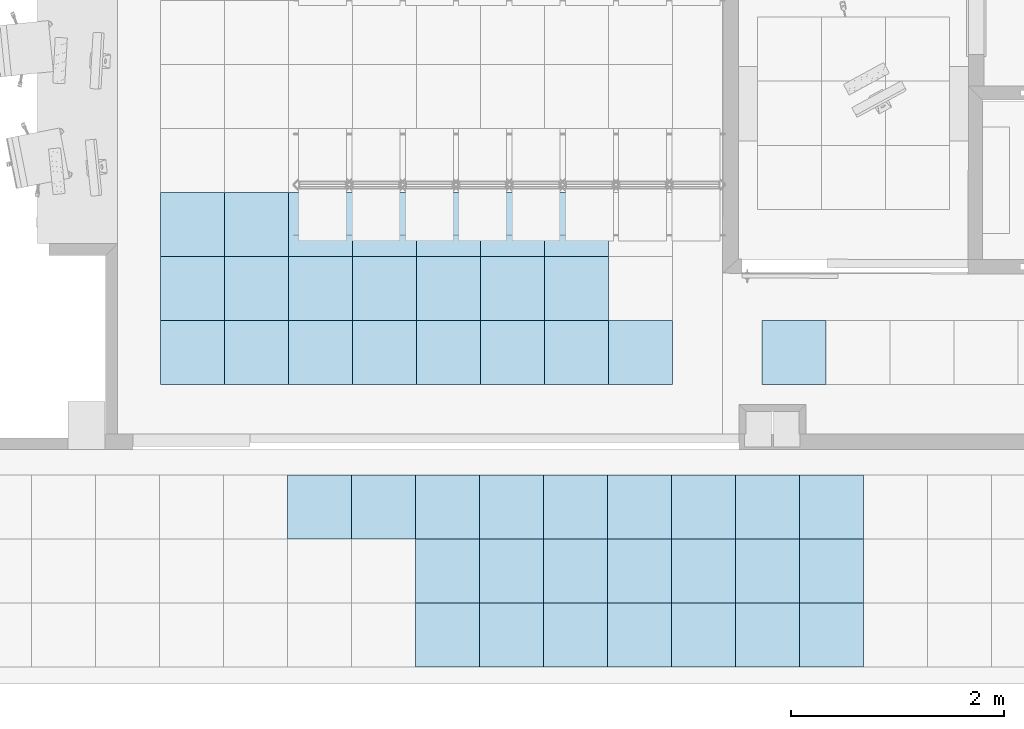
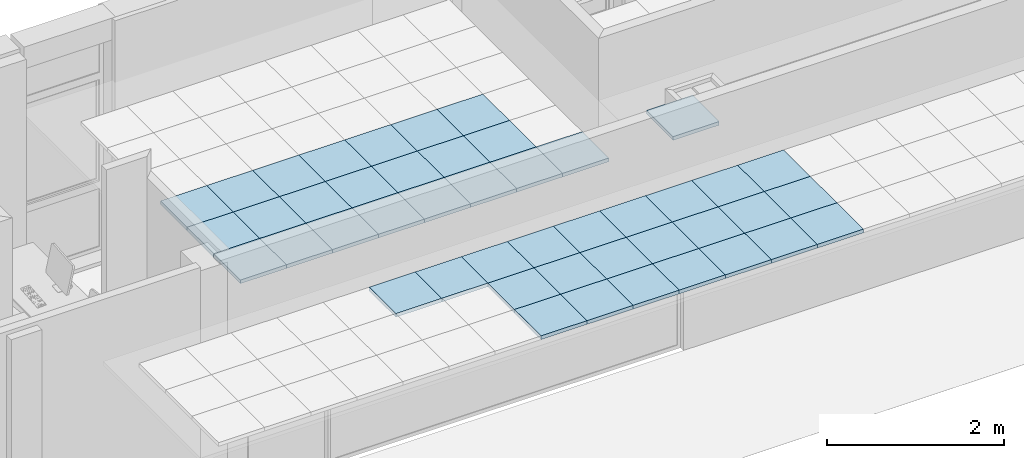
# One storey, part 14 of 68: 46 slabs.
"""IFC2X3 building model written with IfcOpenShell, lengths in millimetres."""

from ifc_helpers import new_model, entity, si_unit, converted_unit, derived_unit, money_unit, direction, frame, origin_with_axes, place, context, subcontext, project, spatial, polyline, outline, extrude, material, layer, layer_set, layer_usage, type_object, element, save


model = new_model("IFC2X3")

# Units and contexts
model_context = context("Model", 3, precision=0.01, world=origin_with_axes(), true_north=direction((0.0, 1.0)))
body_context = subcontext(model_context, "Body", "Model", "MODEL_VIEW")
ifc_project = project(units=[si_unit("LENGTHUNIT", "METRE", prefix="MILLI"), si_unit("AREAUNIT", "SQUARE_METRE"), si_unit("VOLUMEUNIT", "CUBIC_METRE"), converted_unit("PLANEANGLEUNIT", "DEGREE", entity("IfcPlaneAngleMeasure", 0.0174532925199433), si_unit("PLANEANGLEUNIT", "RADIAN"), dimensions=[0, 0, 0, 0, 0, 0, 0]), money_unit("USD"), converted_unit("TIMEUNIT", "Year", entity("IfcTimeMeasure", 31557600.0), si_unit("TIMEUNIT", "SECOND"), dimensions=[0, 0, 1, 0, 0, 0, 0]), si_unit("MASSUNIT", "GRAM", prefix="KILO"), si_unit("THERMODYNAMICTEMPERATUREUNIT", "DEGREE_CELSIUS"), si_unit("LUMINOUSINTENSITYUNIT", "LUMEN"), si_unit("ENERGYUNIT", "JOULE", prefix="MEGA"), derived_unit("THERMALCONDUCTANCEUNIT", [(si_unit("POWERUNIT", "WATT"), 1), (si_unit("LENGTHUNIT", "METRE"), -1), (si_unit("THERMODYNAMICTEMPERATUREUNIT", "KELVIN"), -1)]), derived_unit("SPECIFICHEATCAPACITYUNIT", [(si_unit("ENERGYUNIT", "JOULE"), 1), (si_unit("MASSUNIT", "GRAM", prefix="KILO"), -1), (si_unit("THERMODYNAMICTEMPERATUREUNIT", "KELVIN"), -1)]), derived_unit("MASSDENSITYUNIT", [(si_unit("MASSUNIT", "GRAM", prefix="KILO"), 1), (si_unit("VOLUMEUNIT", "CUBIC_METRE"), -1)])], contexts=[model_context])

# Site, building, storey
site_placement = place(None, origin_with_axes())
site = spatial("IfcSite", under=ifc_project, at=site_placement, Name="Sitio", CompositionType="ELEMENT")
building_placement = place(site_placement, origin_with_axes())
building = spatial("IfcBuilding", under=site, at=building_placement, Name="Construcción", CompositionType="ELEMENT")
storey_placement = place(building_placement, origin_with_axes())
storey = spatial("IfcBuildingStorey", under=building, at=storey_placement, Name="PLANTA 1ª", CompositionType="ELEMENT", Elevation=0.0)

# Slabs
ifc_material_1 = material(Name="ARQ_CE217_Armstrong 60x60")
ifc_layer_1 = layer(ifc_material_1, 50.0, ventilated="UNKNOWN")
ifc_layer_set_1 = layer_set([ifc_layer_1], Name="ARQ_CE217_Armstrong 60x60 50")
ifc_layer_usage_1 = layer_usage(ifc_layer_set_1, "AXIS3", "NEGATIVE", 50.0)
slab_type_1 = type_object("IfcSlabType", Name="ARQ_CE217_Armstrong 60x60 50", PredefinedType="NOTDEFINED")
slab_1_placement = place(storey_placement, frame((-18358.75335666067, -15874.05591184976, 2500.0), z_axis=(0.0, 0.0, 1.0), x_axis=(1.0, 0.0, 0.0)))
element("IfcSlab", 1, at=slab_1_placement, inside=storey, type_object=slab_type_1, material=ifc_layer_usage_1, Name="SLA - 026", PredefinedType="NOTDEFINED", context=body_context, shape_type="SweptSolid", body=[
    extrude(outline(polyline([(0.0, 0.0), (600.0000000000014, 0.0), (600.0000000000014, 599.9999999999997), (0.0, 599.9999999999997), (0.0, 0.0)])), frame((0.0, 0.0, -50.0), z_axis=(0.0, 0.0, 1.0), x_axis=(1.0, 0.0, 0.0)), (0.0, 0.0, 1.0), 50.0),
])
ifc_layer_usage_2 = layer_usage(ifc_layer_set_1, "AXIS3", "NEGATIVE", 50.0)
slab_2_placement = place(storey_placement, frame((-17158.75335666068, -15874.05591184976, 2500.0), z_axis=(0.0, 0.0, 1.0), x_axis=(1.0, 0.0, 0.0)))
element("IfcSlab", 2, at=slab_2_placement, inside=storey, type_object=slab_type_1, material=ifc_layer_usage_2, Name="SLA - 026", PredefinedType="NOTDEFINED", context=body_context, shape_type="SweptSolid", body=[
    extrude(outline(polyline([(0.0, 0.0), (600.0000000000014, 0.0), (600.0000000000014, 599.9999999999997), (0.0, 599.9999999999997), (0.0, 0.0)])), frame((0.0, 0.0, -50.0), z_axis=(0.0, 0.0, 1.0), x_axis=(1.0, 0.0, 0.0)), (0.0, 0.0, 1.0), 50.0),
])
ifc_layer_usage_3 = layer_usage(ifc_layer_set_1, "AXIS3", "NEGATIVE", 50.0)
slab_3_placement = place(storey_placement, frame((-16558.75335666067, -15874.05591184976, 2500.0), z_axis=(0.0, 0.0, 1.0), x_axis=(1.0, 0.0, 0.0)))
element("IfcSlab", 3, at=slab_3_placement, inside=storey, type_object=slab_type_1, material=ifc_layer_usage_3, Name="SLA - 026", PredefinedType="NOTDEFINED", context=body_context, shape_type="SweptSolid", body=[
    extrude(outline(polyline([(0.0, 0.0), (599.9999999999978, 0.0), (599.9999999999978, 599.9999999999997), (0.0, 599.9999999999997), (0.0, 0.0)])), frame((0.0, 0.0, -50.0), z_axis=(0.0, 0.0, 1.0), x_axis=(1.0, 0.0, 0.0)), (0.0, 0.0, 1.0), 50.0),
])
ifc_layer_usage_4 = layer_usage(ifc_layer_set_1, "AXIS3", "NEGATIVE", 50.0)
slab_4_placement = place(storey_placement, frame((-15958.75335666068, -15874.05591184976, 2500.0), z_axis=(0.0, 0.0, 1.0), x_axis=(1.0, 0.0, 0.0)))
element("IfcSlab", 4, at=slab_4_placement, inside=storey, type_object=slab_type_1, material=ifc_layer_usage_4, Name="SLA - 026", PredefinedType="NOTDEFINED", context=body_context, shape_type="SweptSolid", body=[
    extrude(outline(polyline([(0.0, 0.0), (600.0000000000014, 0.0), (600.0000000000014, 599.9999999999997), (0.0, 599.9999999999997), (0.0, 0.0)])), frame((0.0, 0.0, -50.0), z_axis=(0.0, 0.0, 1.0), x_axis=(1.0, 0.0, 0.0)), (0.0, 0.0, 1.0), 50.0),
])
ifc_layer_usage_5 = layer_usage(ifc_layer_set_1, "AXIS3", "NEGATIVE", 50.0)
slab_5_placement = place(storey_placement, frame((-15358.75335666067, -15874.05591184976, 2500.0), z_axis=(0.0, 0.0, 1.0), x_axis=(1.0, 0.0, 0.0)))
element("IfcSlab", 5, at=slab_5_placement, inside=storey, type_object=slab_type_1, material=ifc_layer_usage_5, Name="SLA - 026", PredefinedType="NOTDEFINED", context=body_context, shape_type="SweptSolid", body=[
    extrude(outline(polyline([(0.0, 0.0), (599.9999999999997, 0.0), (599.9999999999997, 599.9999999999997), (0.0, 599.9999999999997), (0.0, 0.0)])), frame((0.0, 0.0, -50.0), z_axis=(0.0, 0.0, 1.0), x_axis=(1.0, 0.0, 0.0)), (0.0, 0.0, 1.0), 50.0),
])
ifc_layer_usage_6 = layer_usage(ifc_layer_set_1, "AXIS3", "NEGATIVE", 50.0)
slab_6_placement = place(storey_placement, frame((-17758.75335666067, -15874.05591184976, 2500.0), z_axis=(0.0, 0.0, 1.0), x_axis=(1.0, 0.0, 0.0)))
element("IfcSlab", 6, at=slab_6_placement, inside=storey, type_object=slab_type_1, material=ifc_layer_usage_6, Name="SLA - 026", PredefinedType="NOTDEFINED", context=body_context, shape_type="SweptSolid", body=[
    extrude(outline(polyline([(0.0, 0.0), (599.9999999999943, 0.0), (599.9999999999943, 599.9999999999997), (0.0, 599.9999999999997), (0.0, 0.0)])), frame((0.0, 0.0, -50.0), z_axis=(0.0, 0.0, 1.0), x_axis=(1.0, 0.0, 0.0)), (0.0, 0.0, 1.0), 50.0),
])
ifc_layer_usage_7 = layer_usage(ifc_layer_set_1, "AXIS3", "NEGATIVE", 50.0)
slab_7_placement = place(storey_placement, frame((-14758.75335666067, -15874.05591184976, 2500.0), z_axis=(0.0, 0.0, 1.0), x_axis=(1.0, 0.0, 0.0)))
element("IfcSlab", 7, at=slab_7_placement, inside=storey, type_object=slab_type_1, material=ifc_layer_usage_7, Name="SLA - 026", PredefinedType="NOTDEFINED", context=body_context, shape_type="SweptSolid", body=[
    extrude(outline(polyline([(0.0, 0.0), (599.9999999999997, 0.0), (599.9999999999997, 599.9999999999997), (0.0, 599.9999999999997), (0.0, 0.0)])), frame((0.0, 0.0, -50.0), z_axis=(0.0, 0.0, 1.0), x_axis=(1.0, 0.0, 0.0)), (0.0, 0.0, 1.0), 50.0),
])
ifc_layer_usage_8 = layer_usage(ifc_layer_set_1, "AXIS3", "NEGATIVE", 50.0)
slab_8_placement = place(storey_placement, frame((-18358.75335666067, -15274.05591184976, 2500.0), z_axis=(0.0, 0.0, 1.0), x_axis=(1.0, 0.0, 0.0)))
element("IfcSlab", 8, at=slab_8_placement, inside=storey, type_object=slab_type_1, material=ifc_layer_usage_8, Name="SLA - 026", PredefinedType="NOTDEFINED", context=body_context, shape_type="SweptSolid", body=[
    extrude(outline(polyline([(0.0, 0.0), (600.0000000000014, 0.0), (600.0000000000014, 599.9999999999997), (0.0, 599.9999999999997), (0.0, 0.0)])), frame((0.0, 0.0, -50.0), z_axis=(0.0, 0.0, 1.0), x_axis=(1.0, 0.0, 0.0)), (0.0, 0.0, 1.0), 50.0),
])
ifc_layer_usage_9 = layer_usage(ifc_layer_set_1, "AXIS3", "NEGATIVE", 50.0)
slab_9_placement = place(storey_placement, frame((-17158.75335666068, -15274.05591184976, 2500.0), z_axis=(0.0, 0.0, 1.0), x_axis=(1.0, 0.0, 0.0)))
element("IfcSlab", 9, at=slab_9_placement, inside=storey, type_object=slab_type_1, material=ifc_layer_usage_9, Name="SLA - 026", PredefinedType="NOTDEFINED", context=body_context, shape_type="SweptSolid", body=[
    extrude(outline(polyline([(0.0, 0.0), (600.0000000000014, 0.0), (600.0000000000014, 599.9999999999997), (0.0, 599.9999999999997), (0.0, 0.0)])), frame((0.0, 0.0, -50.0), z_axis=(0.0, 0.0, 1.0), x_axis=(1.0, 0.0, 0.0)), (0.0, 0.0, 1.0), 50.0),
])
ifc_layer_usage_10 = layer_usage(ifc_layer_set_1, "AXIS3", "NEGATIVE", 50.0)
slab_10_placement = place(storey_placement, frame((-17758.75335666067, -15274.05591184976, 2500.0), z_axis=(0.0, 0.0, 1.0), x_axis=(1.0, 0.0, 0.0)))
element("IfcSlab", 10, at=slab_10_placement, inside=storey, type_object=slab_type_1, material=ifc_layer_usage_10, Name="SLA - 026", PredefinedType="NOTDEFINED", context=body_context, shape_type="SweptSolid", body=[
    extrude(outline(polyline([(0.0, 0.0), (599.9999999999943, 0.0), (599.9999999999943, 599.9999999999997), (0.0, 599.9999999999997), (0.0, 0.0)])), frame((0.0, 0.0, -50.0), z_axis=(0.0, 0.0, 1.0), x_axis=(1.0, 0.0, 0.0)), (0.0, 0.0, 1.0), 50.0),
])
ifc_layer_usage_11 = layer_usage(ifc_layer_set_1, "AXIS3", "NEGATIVE", 50.0)
slab_11_placement = place(storey_placement, frame((-15958.75335666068, -15274.05591184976, 2500.0), z_axis=(0.0, 0.0, 1.0), x_axis=(1.0, 0.0, 0.0)))
element("IfcSlab", 11, at=slab_11_placement, inside=storey, type_object=slab_type_1, material=ifc_layer_usage_11, Name="SLA - 026", PredefinedType="NOTDEFINED", context=body_context, shape_type="SweptSolid", body=[
    extrude(outline(polyline([(0.0, 0.0), (600.0000000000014, 0.0), (600.0000000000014, 599.9999999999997), (0.0, 599.9999999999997), (0.0, 0.0)])), frame((0.0, 0.0, -50.0), z_axis=(0.0, 0.0, 1.0), x_axis=(1.0, 0.0, 0.0)), (0.0, 0.0, 1.0), 50.0),
])
ifc_layer_usage_12 = layer_usage(ifc_layer_set_1, "AXIS3", "NEGATIVE", 50.0)
slab_12_placement = place(storey_placement, frame((-16558.75335666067, -15274.05591184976, 2500.0), z_axis=(0.0, 0.0, 1.0), x_axis=(1.0, 0.0, 0.0)))
element("IfcSlab", 12, at=slab_12_placement, inside=storey, type_object=slab_type_1, material=ifc_layer_usage_12, Name="SLA - 026", PredefinedType="NOTDEFINED", context=body_context, shape_type="SweptSolid", body=[
    extrude(outline(polyline([(0.0, 0.0), (599.9999999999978, 0.0), (599.9999999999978, 599.9999999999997), (0.0, 599.9999999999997), (0.0, 0.0)])), frame((0.0, 0.0, -50.0), z_axis=(0.0, 0.0, 1.0), x_axis=(1.0, 0.0, 0.0)), (0.0, 0.0, 1.0), 50.0),
])
ifc_layer_usage_13 = layer_usage(ifc_layer_set_1, "AXIS3", "NEGATIVE", 50.0)
slab_13_placement = place(storey_placement, frame((-15358.75335666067, -15274.05591184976, 2500.0), z_axis=(0.0, 0.0, 1.0), x_axis=(1.0, 0.0, 0.0)))
element("IfcSlab", 13, at=slab_13_placement, inside=storey, type_object=slab_type_1, material=ifc_layer_usage_13, Name="SLA - 026", PredefinedType="NOTDEFINED", context=body_context, shape_type="SweptSolid", body=[
    extrude(outline(polyline([(0.0, 0.0), (599.9999999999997, 0.0), (599.9999999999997, 599.9999999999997), (0.0, 599.9999999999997), (0.0, 0.0)])), frame((0.0, 0.0, -50.0), z_axis=(0.0, 0.0, 1.0), x_axis=(1.0, 0.0, 0.0)), (0.0, 0.0, 1.0), 50.0),
])
ifc_layer_usage_14 = layer_usage(ifc_layer_set_1, "AXIS3", "NEGATIVE", 50.0)
slab_14_placement = place(storey_placement, frame((-14758.75335666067, -15274.05591184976, 2500.0), z_axis=(0.0, 0.0, 1.0), x_axis=(1.0, 0.0, 0.0)))
element("IfcSlab", 14, at=slab_14_placement, inside=storey, type_object=slab_type_1, material=ifc_layer_usage_14, Name="SLA - 026", PredefinedType="NOTDEFINED", context=body_context, shape_type="SweptSolid", body=[
    extrude(outline(polyline([(0.0, 0.0), (599.9999999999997, 0.0), (599.9999999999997, 599.9999999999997), (0.0, 599.9999999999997), (0.0, 0.0)])), frame((0.0, 0.0, -50.0), z_axis=(0.0, 0.0, 1.0), x_axis=(1.0, 0.0, 0.0)), (0.0, 0.0, 1.0), 50.0),
])
ifc_layer_usage_15 = layer_usage(ifc_layer_set_1, "AXIS3", "NEGATIVE", 50.0)
slab_15_placement = place(storey_placement, frame((-18358.75335666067, -16474.05591184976, 2500.0), z_axis=(0.0, 0.0, 1.0), x_axis=(1.0, 0.0, 0.0)))
element("IfcSlab", 15, at=slab_15_placement, inside=storey, type_object=slab_type_1, material=ifc_layer_usage_15, Name="SLA - 026", PredefinedType="NOTDEFINED", context=body_context, shape_type="SweptSolid", body=[
    extrude(outline(polyline([(0.0, 0.0), (600.0000000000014, 0.0), (600.0000000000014, 600.0000000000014), (0.0, 600.0000000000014), (0.0, 0.0)])), frame((0.0, 0.0, -50.0), z_axis=(0.0, 0.0, 1.0), x_axis=(1.0, 0.0, 0.0)), (0.0, 0.0, 1.0), 50.0),
])
ifc_layer_usage_16 = layer_usage(ifc_layer_set_1, "AXIS3", "NEGATIVE", 50.0)
slab_16_placement = place(storey_placement, frame((-17158.75335666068, -16474.05591184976, 2500.0), z_axis=(0.0, 0.0, 1.0), x_axis=(1.0, 0.0, 0.0)))
element("IfcSlab", 16, at=slab_16_placement, inside=storey, type_object=slab_type_1, material=ifc_layer_usage_16, Name="SLA - 026", PredefinedType="NOTDEFINED", context=body_context, shape_type="SweptSolid", body=[
    extrude(outline(polyline([(0.0, 0.0), (600.0000000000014, 0.0), (600.0000000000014, 600.0000000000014), (0.0, 600.0000000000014), (0.0, 0.0)])), frame((0.0, 0.0, -50.0), z_axis=(0.0, 0.0, 1.0), x_axis=(1.0, 0.0, 0.0)), (0.0, 0.0, 1.0), 50.0),
])
ifc_layer_usage_17 = layer_usage(ifc_layer_set_1, "AXIS3", "NEGATIVE", 50.0)
slab_17_placement = place(storey_placement, frame((-17758.75335666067, -16474.05591184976, 2500.0), z_axis=(0.0, 0.0, 1.0), x_axis=(1.0, 0.0, 0.0)))
element("IfcSlab", 17, at=slab_17_placement, inside=storey, type_object=slab_type_1, material=ifc_layer_usage_17, Name="SLA - 026", PredefinedType="NOTDEFINED", context=body_context, shape_type="SweptSolid", body=[
    extrude(outline(polyline([(0.0, 0.0), (599.9999999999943, 0.0), (599.9999999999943, 600.0000000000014), (0.0, 600.0000000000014), (0.0, 0.0)])), frame((0.0, 0.0, -50.0), z_axis=(0.0, 0.0, 1.0), x_axis=(1.0, 0.0, 0.0)), (0.0, 0.0, 1.0), 50.0),
])
ifc_layer_usage_18 = layer_usage(ifc_layer_set_1, "AXIS3", "NEGATIVE", 50.0)
slab_18_placement = place(storey_placement, frame((-15958.75335666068, -16474.05591184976, 2500.0), z_axis=(0.0, 0.0, 1.0), x_axis=(1.0, 0.0, 0.0)))
element("IfcSlab", 18, at=slab_18_placement, inside=storey, type_object=slab_type_1, material=ifc_layer_usage_18, Name="SLA - 026", PredefinedType="NOTDEFINED", context=body_context, shape_type="SweptSolid", body=[
    extrude(outline(polyline([(0.0, 0.0), (600.0000000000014, 0.0), (600.0000000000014, 600.0000000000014), (0.0, 600.0000000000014), (0.0, 0.0)])), frame((0.0, 0.0, -50.0), z_axis=(0.0, 0.0, 1.0), x_axis=(1.0, 0.0, 0.0)), (0.0, 0.0, 1.0), 50.0),
])
ifc_layer_usage_19 = layer_usage(ifc_layer_set_1, "AXIS3", "NEGATIVE", 50.0)
slab_19_placement = place(storey_placement, frame((-14758.75335666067, -16474.05591184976, 2500.0), z_axis=(0.0, 0.0, 1.0), x_axis=(1.0, 0.0, 0.0)))
element("IfcSlab", 19, at=slab_19_placement, inside=storey, type_object=slab_type_1, material=ifc_layer_usage_19, Name="SLA - 026", PredefinedType="NOTDEFINED", context=body_context, shape_type="SweptSolid", body=[
    extrude(outline(polyline([(0.0, 0.0), (599.9999999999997, 0.0), (599.9999999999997, 600.0000000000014), (0.0, 600.0000000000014), (0.0, 0.0)])), frame((0.0, 0.0, -50.0), z_axis=(0.0, 0.0, 1.0), x_axis=(1.0, 0.0, 0.0)), (0.0, 0.0, 1.0), 50.0),
])
ifc_layer_usage_20 = layer_usage(ifc_layer_set_1, "AXIS3", "NEGATIVE", 50.0)
slab_20_placement = place(storey_placement, frame((-14158.75335666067, -16474.05591184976, 2500.0), z_axis=(0.0, 0.0, 1.0), x_axis=(1.0, 0.0, 0.0)))
element("IfcSlab", 20, at=slab_20_placement, inside=storey, type_object=slab_type_1, material=ifc_layer_usage_20, Name="SLA - 026", PredefinedType="NOTDEFINED", context=body_context, shape_type="SweptSolid", body=[
    extrude(outline(polyline([(0.0, 0.0), (600.0000000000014, 0.0), (600.0000000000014, 600.0000000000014), (0.0, 600.0000000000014), (0.0, 0.0)])), frame((0.0, 0.0, -50.0), z_axis=(0.0, 0.0, 1.0), x_axis=(1.0, 0.0, 0.0)), (0.0, 0.0, 1.0), 50.0),
])
ifc_layer_usage_21 = layer_usage(ifc_layer_set_1, "AXIS3", "NEGATIVE", 50.0)
slab_21_placement = place(storey_placement, frame((-15358.75335666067, -16474.05591184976, 2500.0), z_axis=(0.0, 0.0, 1.0), x_axis=(1.0, 0.0, 0.0)))
element("IfcSlab", 21, at=slab_21_placement, inside=storey, type_object=slab_type_1, material=ifc_layer_usage_21, Name="SLA - 026", PredefinedType="NOTDEFINED", context=body_context, shape_type="SweptSolid", body=[
    extrude(outline(polyline([(0.0, 0.0), (599.9999999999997, 0.0), (599.9999999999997, 600.0000000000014), (0.0, 600.0000000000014), (0.0, 0.0)])), frame((0.0, 0.0, -50.0), z_axis=(0.0, 0.0, 1.0), x_axis=(1.0, 0.0, 0.0)), (0.0, 0.0, 1.0), 50.0),
])
ifc_layer_usage_22 = layer_usage(ifc_layer_set_1, "AXIS3", "NEGATIVE", 50.0)
slab_22_placement = place(storey_placement, frame((-12719.57597210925, -16474.05591184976, 2500.0), z_axis=(0.0, 0.0, 1.0), x_axis=(1.0, 0.0, 0.0)))
element("IfcSlab", 22, at=slab_22_placement, inside=storey, type_object=slab_type_1, material=ifc_layer_usage_22, Name="SLA - 026", PredefinedType="NOTDEFINED", context=body_context, shape_type="SweptSolid", body=[
    extrude(outline(polyline([(0.0, 0.0), (600.0000000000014, 0.0), (600.0000000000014, 600.0000000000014), (0.0, 600.0000000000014), (0.0, 0.0)])), frame((0.0, 0.0, -50.0), z_axis=(0.0, 0.0, 1.0), x_axis=(1.0, 0.0, 0.0)), (0.0, 0.0, 1.0), 50.0),
])
ifc_layer_usage_23 = layer_usage(ifc_layer_set_1, "AXIS3", "NEGATIVE", 50.0)
slab_23_placement = place(storey_placement, frame((-17169.70328336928, -17921.97576450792, 2500.0), z_axis=(0.0, 0.0, 1.0), x_axis=(1.0, 0.0, 0.0)))
element("IfcSlab", 23, at=slab_23_placement, inside=storey, type_object=slab_type_1, material=ifc_layer_usage_23, Name="SLA - 026", PredefinedType="NOTDEFINED", context=body_context, shape_type="SweptSolid", body=[
    extrude(outline(polyline([(0.0, 0.0), (600.0000000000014, 0.0), (600.0000000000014, 600.0000000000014), (0.0, 600.0000000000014), (0.0, 0.0)])), frame((0.0, 0.0, -50.0), z_axis=(0.0, 0.0, 1.0), x_axis=(1.0, 0.0, 0.0)), (0.0, 0.0, 1.0), 50.0),
])
ifc_layer_usage_24 = layer_usage(ifc_layer_set_1, "AXIS3", "NEGATIVE", 50.0)
slab_24_placement = place(storey_placement, frame((-16569.70328336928, -17921.97576450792, 2500.0), z_axis=(0.0, 0.0, 1.0), x_axis=(1.0, 0.0, 0.0)))
element("IfcSlab", 24, at=slab_24_placement, inside=storey, type_object=slab_type_1, material=ifc_layer_usage_24, Name="SLA - 026", PredefinedType="NOTDEFINED", context=body_context, shape_type="SweptSolid", body=[
    extrude(outline(polyline([(0.0, 0.0), (599.9999999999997, 0.0), (599.9999999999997, 600.0000000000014), (0.0, 600.0000000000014), (0.0, 0.0)])), frame((0.0, 0.0, -50.0), z_axis=(0.0, 0.0, 1.0), x_axis=(1.0, 0.0, 0.0)), (0.0, 0.0, 1.0), 50.0),
])
ifc_layer_usage_25 = layer_usage(ifc_layer_set_1, "AXIS3", "NEGATIVE", 50.0)
slab_25_placement = place(storey_placement, frame((-15969.70328336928, -19121.97576450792, 2500.0), z_axis=(0.0, 0.0, 1.0), x_axis=(1.0, 0.0, 0.0)))
element("IfcSlab", 25, at=slab_25_placement, inside=storey, type_object=slab_type_1, material=ifc_layer_usage_25, Name="SLA - 026", PredefinedType="NOTDEFINED", context=body_context, shape_type="SweptSolid", body=[
    extrude(outline(polyline([(0.0, 0.0), (600.0000000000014, 0.0), (600.0000000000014, 600.0000000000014), (0.0, 600.0000000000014), (0.0, 0.0)])), frame((0.0, 0.0, -50.0), z_axis=(0.0, 0.0, 1.0), x_axis=(1.0, 0.0, 0.0)), (0.0, 0.0, 1.0), 50.0),
])
ifc_layer_usage_26 = layer_usage(ifc_layer_set_1, "AXIS3", "NEGATIVE", 50.0)
slab_26_placement = place(storey_placement, frame((-15969.70328336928, -18521.97576450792, 2500.0), z_axis=(0.0, 0.0, 1.0), x_axis=(1.0, 0.0, 0.0)))
element("IfcSlab", 26, at=slab_26_placement, inside=storey, type_object=slab_type_1, material=ifc_layer_usage_26, Name="SLA - 026", PredefinedType="NOTDEFINED", context=body_context, shape_type="SweptSolid", body=[
    extrude(outline(polyline([(0.0, 0.0), (600.0000000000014, 0.0), (600.0000000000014, 600.0000000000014), (0.0, 600.0000000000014), (0.0, 0.0)])), frame((0.0, 0.0, -50.0), z_axis=(0.0, 0.0, 1.0), x_axis=(1.0, 0.0, 0.0)), (0.0, 0.0, 1.0), 50.0),
])
ifc_layer_usage_27 = layer_usage(ifc_layer_set_1, "AXIS3", "NEGATIVE", 50.0)
slab_27_placement = place(storey_placement, frame((-15969.70328336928, -17921.97576450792, 2500.0), z_axis=(0.0, 0.0, 1.0), x_axis=(1.0, 0.0, 0.0)))
element("IfcSlab", 27, at=slab_27_placement, inside=storey, type_object=slab_type_1, material=ifc_layer_usage_27, Name="SLA - 026", PredefinedType="NOTDEFINED", context=body_context, shape_type="SweptSolid", body=[
    extrude(outline(polyline([(0.0, 0.0), (600.0000000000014, 0.0), (600.0000000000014, 600.0000000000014), (0.0, 600.0000000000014), (0.0, 0.0)])), frame((0.0, 0.0, -50.0), z_axis=(0.0, 0.0, 1.0), x_axis=(1.0, 0.0, 0.0)), (0.0, 0.0, 1.0), 50.0),
])
ifc_layer_usage_28 = layer_usage(ifc_layer_set_1, "AXIS3", "NEGATIVE", 50.0)
slab_28_placement = place(storey_placement, frame((-15369.70328336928, -19121.97576450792, 2500.0), z_axis=(0.0, 0.0, 1.0), x_axis=(1.0, 0.0, 0.0)))
element("IfcSlab", 28, at=slab_28_placement, inside=storey, type_object=slab_type_1, material=ifc_layer_usage_28, Name="SLA - 026", PredefinedType="NOTDEFINED", context=body_context, shape_type="SweptSolid", body=[
    extrude(outline(polyline([(0.0, 0.0), (600.0000000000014, 0.0), (600.0000000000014, 600.0000000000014), (0.0, 600.0000000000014), (0.0, 0.0)])), frame((0.0, 0.0, -50.0), z_axis=(0.0, 0.0, 1.0), x_axis=(1.0, 0.0, 0.0)), (0.0, 0.0, 1.0), 50.0),
])
ifc_layer_usage_29 = layer_usage(ifc_layer_set_1, "AXIS3", "NEGATIVE", 50.0)
slab_29_placement = place(storey_placement, frame((-15369.70328336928, -18521.97576450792, 2500.0), z_axis=(0.0, 0.0, 1.0), x_axis=(1.0, 0.0, 0.0)))
element("IfcSlab", 29, at=slab_29_placement, inside=storey, type_object=slab_type_1, material=ifc_layer_usage_29, Name="SLA - 026", PredefinedType="NOTDEFINED", context=body_context, shape_type="SweptSolid", body=[
    extrude(outline(polyline([(0.0, 0.0), (600.0000000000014, 0.0), (600.0000000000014, 600.0000000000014), (0.0, 600.0000000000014), (0.0, 0.0)])), frame((0.0, 0.0, -50.0), z_axis=(0.0, 0.0, 1.0), x_axis=(1.0, 0.0, 0.0)), (0.0, 0.0, 1.0), 50.0),
])
ifc_layer_usage_30 = layer_usage(ifc_layer_set_1, "AXIS3", "NEGATIVE", 50.0)
slab_30_placement = place(storey_placement, frame((-14769.70328336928, -19121.97576450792, 2500.0), z_axis=(0.0, 0.0, 1.0), x_axis=(1.0, 0.0, 0.0)))
element("IfcSlab", 30, at=slab_30_placement, inside=storey, type_object=slab_type_1, material=ifc_layer_usage_30, Name="SLA - 026", PredefinedType="NOTDEFINED", context=body_context, shape_type="SweptSolid", body=[
    extrude(outline(polyline([(0.0, 0.0), (600.0000000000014, 0.0), (600.0000000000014, 600.0000000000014), (0.0, 600.0000000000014), (0.0, 0.0)])), frame((0.0, 0.0, -50.0), z_axis=(0.0, 0.0, 1.0), x_axis=(1.0, 0.0, 0.0)), (0.0, 0.0, 1.0), 50.0),
])
ifc_layer_usage_31 = layer_usage(ifc_layer_set_1, "AXIS3", "NEGATIVE", 50.0)
slab_31_placement = place(storey_placement, frame((-15369.70328336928, -17921.97576450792, 2500.0), z_axis=(0.0, 0.0, 1.0), x_axis=(1.0, 0.0, 0.0)))
element("IfcSlab", 31, at=slab_31_placement, inside=storey, type_object=slab_type_1, material=ifc_layer_usage_31, Name="SLA - 026", PredefinedType="NOTDEFINED", context=body_context, shape_type="SweptSolid", body=[
    extrude(outline(polyline([(0.0, 0.0), (600.0000000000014, 0.0), (600.0000000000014, 600.0000000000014), (0.0, 600.0000000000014), (0.0, 0.0)])), frame((0.0, 0.0, -50.0), z_axis=(0.0, 0.0, 1.0), x_axis=(1.0, 0.0, 0.0)), (0.0, 0.0, 1.0), 50.0),
])
ifc_layer_usage_32 = layer_usage(ifc_layer_set_1, "AXIS3", "NEGATIVE", 50.0)
slab_32_placement = place(storey_placement, frame((-14769.70328336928, -18521.97576450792, 2500.0), z_axis=(0.0, 0.0, 1.0), x_axis=(1.0, 0.0, 0.0)))
element("IfcSlab", 32, at=slab_32_placement, inside=storey, type_object=slab_type_1, material=ifc_layer_usage_32, Name="SLA - 026", PredefinedType="NOTDEFINED", context=body_context, shape_type="SweptSolid", body=[
    extrude(outline(polyline([(0.0, 0.0), (600.0000000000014, 0.0), (600.0000000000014, 600.0000000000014), (0.0, 600.0000000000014), (0.0, 0.0)])), frame((0.0, 0.0, -50.0), z_axis=(0.0, 0.0, 1.0), x_axis=(1.0, 0.0, 0.0)), (0.0, 0.0, 1.0), 50.0),
])
ifc_layer_usage_33 = layer_usage(ifc_layer_set_1, "AXIS3", "NEGATIVE", 50.0)
slab_33_placement = place(storey_placement, frame((-14769.70328336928, -17921.97576450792, 2500.0), z_axis=(0.0, 0.0, 1.0), x_axis=(1.0, 0.0, 0.0)))
element("IfcSlab", 33, at=slab_33_placement, inside=storey, type_object=slab_type_1, material=ifc_layer_usage_33, Name="SLA - 026", PredefinedType="NOTDEFINED", context=body_context, shape_type="SweptSolid", body=[
    extrude(outline(polyline([(0.0, 0.0), (600.0000000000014, 0.0), (600.0000000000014, 600.0000000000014), (0.0, 600.0000000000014), (0.0, 0.0)])), frame((0.0, 0.0, -50.0), z_axis=(0.0, 0.0, 1.0), x_axis=(1.0, 0.0, 0.0)), (0.0, 0.0, 1.0), 50.0),
])
ifc_layer_usage_34 = layer_usage(ifc_layer_set_1, "AXIS3", "NEGATIVE", 50.0)
slab_34_placement = place(storey_placement, frame((-14169.70328336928, -19121.97576450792, 2500.0), z_axis=(0.0, 0.0, 1.0), x_axis=(1.0, 0.0, 0.0)))
element("IfcSlab", 34, at=slab_34_placement, inside=storey, type_object=slab_type_1, material=ifc_layer_usage_34, Name="SLA - 026", PredefinedType="NOTDEFINED", context=body_context, shape_type="SweptSolid", body=[
    extrude(outline(polyline([(0.0, 0.0), (600.0000000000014, 0.0), (600.0000000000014, 600.0000000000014), (0.0, 600.0000000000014), (0.0, 0.0)])), frame((0.0, 0.0, -50.0), z_axis=(0.0, 0.0, 1.0), x_axis=(1.0, 0.0, 0.0)), (0.0, 0.0, 1.0), 50.0),
])
ifc_layer_usage_35 = layer_usage(ifc_layer_set_1, "AXIS3", "NEGATIVE", 50.0)
slab_35_placement = place(storey_placement, frame((-14169.70328336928, -18521.97576450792, 2500.0), z_axis=(0.0, 0.0, 1.0), x_axis=(1.0, 0.0, 0.0)))
element("IfcSlab", 35, at=slab_35_placement, inside=storey, type_object=slab_type_1, material=ifc_layer_usage_35, Name="SLA - 026", PredefinedType="NOTDEFINED", context=body_context, shape_type="SweptSolid", body=[
    extrude(outline(polyline([(0.0, 0.0), (600.0000000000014, 0.0), (600.0000000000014, 600.0000000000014), (0.0, 600.0000000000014), (0.0, 0.0)])), frame((0.0, 0.0, -50.0), z_axis=(0.0, 0.0, 1.0), x_axis=(1.0, 0.0, 0.0)), (0.0, 0.0, 1.0), 50.0),
])
ifc_layer_usage_36 = layer_usage(ifc_layer_set_1, "AXIS3", "NEGATIVE", 50.0)
slab_36_placement = place(storey_placement, frame((-14169.70328336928, -17921.97576450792, 2500.0), z_axis=(0.0, 0.0, 1.0), x_axis=(1.0, 0.0, 0.0)))
element("IfcSlab", 36, at=slab_36_placement, inside=storey, type_object=slab_type_1, material=ifc_layer_usage_36, Name="SLA - 026", PredefinedType="NOTDEFINED", context=body_context, shape_type="SweptSolid", body=[
    extrude(outline(polyline([(0.0, 0.0), (600.0000000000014, 0.0), (600.0000000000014, 600.0000000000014), (0.0, 600.0000000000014), (0.0, 0.0)])), frame((0.0, 0.0, -50.0), z_axis=(0.0, 0.0, 1.0), x_axis=(1.0, 0.0, 0.0)), (0.0, 0.0, 1.0), 50.0),
])
ifc_layer_usage_37 = layer_usage(ifc_layer_set_1, "AXIS3", "NEGATIVE", 50.0)
slab_37_placement = place(storey_placement, frame((-13569.70328336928, -19121.97576450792, 2500.0), z_axis=(0.0, 0.0, 1.0), x_axis=(1.0, 0.0, 0.0)))
element("IfcSlab", 37, at=slab_37_placement, inside=storey, type_object=slab_type_1, material=ifc_layer_usage_37, Name="SLA - 026", PredefinedType="NOTDEFINED", context=body_context, shape_type="SweptSolid", body=[
    extrude(outline(polyline([(0.0, 0.0), (600.0000000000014, 0.0), (600.0000000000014, 600.0000000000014), (0.0, 600.0000000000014), (0.0, 0.0)])), frame((0.0, 0.0, -50.0), z_axis=(0.0, 0.0, 1.0), x_axis=(1.0, 0.0, 0.0)), (0.0, 0.0, 1.0), 50.0),
])
ifc_layer_usage_38 = layer_usage(ifc_layer_set_1, "AXIS3", "NEGATIVE", 50.0)
slab_38_placement = place(storey_placement, frame((-13569.70328336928, -18521.97576450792, 2500.0), z_axis=(0.0, 0.0, 1.0), x_axis=(1.0, 0.0, 0.0)))
element("IfcSlab", 38, at=slab_38_placement, inside=storey, type_object=slab_type_1, material=ifc_layer_usage_38, Name="SLA - 026", PredefinedType="NOTDEFINED", context=body_context, shape_type="SweptSolid", body=[
    extrude(outline(polyline([(0.0, 0.0), (600.0000000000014, 0.0), (600.0000000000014, 600.0000000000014), (0.0, 600.0000000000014), (0.0, 0.0)])), frame((0.0, 0.0, -50.0), z_axis=(0.0, 0.0, 1.0), x_axis=(1.0, 0.0, 0.0)), (0.0, 0.0, 1.0), 50.0),
])
ifc_layer_usage_39 = layer_usage(ifc_layer_set_1, "AXIS3", "NEGATIVE", 50.0)
slab_39_placement = place(storey_placement, frame((-13569.70328336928, -17921.97576450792, 2500.0), z_axis=(0.0, 0.0, 1.0), x_axis=(1.0, 0.0, 0.0)))
element("IfcSlab", 39, at=slab_39_placement, inside=storey, type_object=slab_type_1, material=ifc_layer_usage_39, Name="SLA - 026", PredefinedType="NOTDEFINED", context=body_context, shape_type="SweptSolid", body=[
    extrude(outline(polyline([(0.0, 0.0), (600.0000000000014, 0.0), (600.0000000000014, 600.0000000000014), (0.0, 600.0000000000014), (0.0, 0.0)])), frame((0.0, 0.0, -50.0), z_axis=(0.0, 0.0, 1.0), x_axis=(1.0, 0.0, 0.0)), (0.0, 0.0, 1.0), 50.0),
])
ifc_layer_usage_40 = layer_usage(ifc_layer_set_1, "AXIS3", "NEGATIVE", 50.0)
slab_40_placement = place(storey_placement, frame((-12969.70328336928, -19121.97576450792, 2500.0), z_axis=(0.0, 0.0, 1.0), x_axis=(1.0, 0.0, 0.0)))
element("IfcSlab", 40, at=slab_40_placement, inside=storey, type_object=slab_type_1, material=ifc_layer_usage_40, Name="SLA - 026", PredefinedType="NOTDEFINED", context=body_context, shape_type="SweptSolid", body=[
    extrude(outline(polyline([(0.0, 0.0), (600.0000000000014, 0.0), (600.0000000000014, 600.0000000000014), (0.0, 600.0000000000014), (0.0, 0.0)])), frame((0.0, 0.0, -50.0), z_axis=(0.0, 0.0, 1.0), x_axis=(1.0, 0.0, 0.0)), (0.0, 0.0, 1.0), 50.0),
])
ifc_layer_usage_41 = layer_usage(ifc_layer_set_1, "AXIS3", "NEGATIVE", 50.0)
slab_41_placement = place(storey_placement, frame((-12969.70328336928, -18521.97576450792, 2500.0), z_axis=(0.0, 0.0, 1.0), x_axis=(1.0, 0.0, 0.0)))
element("IfcSlab", 41, at=slab_41_placement, inside=storey, type_object=slab_type_1, material=ifc_layer_usage_41, Name="SLA - 026", PredefinedType="NOTDEFINED", context=body_context, shape_type="SweptSolid", body=[
    extrude(outline(polyline([(0.0, 0.0), (600.0000000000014, 0.0), (600.0000000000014, 600.0000000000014), (0.0, 600.0000000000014), (0.0, 0.0)])), frame((0.0, 0.0, -50.0), z_axis=(0.0, 0.0, 1.0), x_axis=(1.0, 0.0, 0.0)), (0.0, 0.0, 1.0), 50.0),
])
ifc_layer_usage_42 = layer_usage(ifc_layer_set_1, "AXIS3", "NEGATIVE", 50.0)
slab_42_placement = place(storey_placement, frame((-12969.70328336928, -17921.97576450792, 2500.0), z_axis=(0.0, 0.0, 1.0), x_axis=(1.0, 0.0, 0.0)))
element("IfcSlab", 42, at=slab_42_placement, inside=storey, type_object=slab_type_1, material=ifc_layer_usage_42, Name="SLA - 026", PredefinedType="NOTDEFINED", context=body_context, shape_type="SweptSolid", body=[
    extrude(outline(polyline([(0.0, 0.0), (600.0000000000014, 0.0), (600.0000000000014, 600.0000000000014), (0.0, 600.0000000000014), (0.0, 0.0)])), frame((0.0, 0.0, -50.0), z_axis=(0.0, 0.0, 1.0), x_axis=(1.0, 0.0, 0.0)), (0.0, 0.0, 1.0), 50.0),
])
ifc_layer_usage_43 = layer_usage(ifc_layer_set_1, "AXIS3", "NEGATIVE", 50.0)
slab_43_placement = place(storey_placement, frame((-12369.70328336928, -19121.97576450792, 2500.0), z_axis=(0.0, 0.0, 1.0), x_axis=(1.0, 0.0, 0.0)))
element("IfcSlab", 43, at=slab_43_placement, inside=storey, type_object=slab_type_1, material=ifc_layer_usage_43, Name="SLA - 026", PredefinedType="NOTDEFINED", context=body_context, shape_type="SweptSolid", body=[
    extrude(outline(polyline([(0.0, 0.0), (600.0000000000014, 0.0), (600.0000000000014, 600.0000000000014), (0.0, 600.0000000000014), (0.0, 0.0)])), frame((0.0, 0.0, -50.0), z_axis=(0.0, 0.0, 1.0), x_axis=(1.0, 0.0, 0.0)), (0.0, 0.0, 1.0), 50.0),
])
ifc_layer_usage_44 = layer_usage(ifc_layer_set_1, "AXIS3", "NEGATIVE", 50.0)
slab_44_placement = place(storey_placement, frame((-12369.70328336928, -18521.97576450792, 2500.0), z_axis=(0.0, 0.0, 1.0), x_axis=(1.0, 0.0, 0.0)))
element("IfcSlab", 44, at=slab_44_placement, inside=storey, type_object=slab_type_1, material=ifc_layer_usage_44, Name="SLA - 026", PredefinedType="NOTDEFINED", context=body_context, shape_type="SweptSolid", body=[
    extrude(outline(polyline([(0.0, 0.0), (600.0000000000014, 0.0), (600.0000000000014, 600.0000000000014), (0.0, 600.0000000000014), (0.0, 0.0)])), frame((0.0, 0.0, -50.0), z_axis=(0.0, 0.0, 1.0), x_axis=(1.0, 0.0, 0.0)), (0.0, 0.0, 1.0), 50.0),
])
ifc_layer_usage_45 = layer_usage(ifc_layer_set_1, "AXIS3", "NEGATIVE", 50.0)
slab_45_placement = place(storey_placement, frame((-12369.70328336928, -17921.97576450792, 2500.0), z_axis=(0.0, 0.0, 1.0), x_axis=(1.0, 0.0, 0.0)))
element("IfcSlab", 45, at=slab_45_placement, inside=storey, type_object=slab_type_1, material=ifc_layer_usage_45, Name="SLA - 026", PredefinedType="NOTDEFINED", context=body_context, shape_type="SweptSolid", body=[
    extrude(outline(polyline([(0.0, 0.0), (600.0000000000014, 0.0), (600.0000000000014, 600.0000000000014), (0.0, 600.0000000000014), (0.0, 0.0)])), frame((0.0, 0.0, -50.0), z_axis=(0.0, 0.0, 1.0), x_axis=(1.0, 0.0, 0.0)), (0.0, 0.0, 1.0), 50.0),
])
ifc_material_2 = material(Name="ARQ_EN271_Camara_Aire")
ifc_layer_2 = layer(ifc_material_2, 50.0, ventilated="UNKNOWN")
ifc_layer_set_2 = layer_set([ifc_layer_2], Name="ARQ_EN271_Camara_Aire 50")
ifc_layer_usage_46 = layer_usage(ifc_layer_set_2, "AXIS3", "NEGATIVE", 50.0)
slab_type_2 = type_object("IfcSlabType", Name="ARQ_EN271_Camara_Aire 50", PredefinedType="NOTDEFINED")
slab_46_placement = place(storey_placement, frame((-16558.75335666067, -16474.05591184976, 2500.0), z_axis=(0.0, 0.0, 1.0), x_axis=(1.0, 0.0, 0.0)))
element("IfcSlab", 46, at=slab_46_placement, inside=storey, type_object=slab_type_2, material=ifc_layer_usage_46, Name="SLA - 026", PredefinedType="NOTDEFINED", context=body_context, shape_type="SweptSolid", body=[
    extrude(outline(polyline([(0.0, 0.0), (599.9999999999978, 0.0), (599.9999999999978, 600.0000000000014), (0.0, 600.0000000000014), (0.0, 0.0)])), frame((0.0, 0.0, -50.0), z_axis=(0.0, 0.0, 1.0), x_axis=(1.0, 0.0, 0.0)), (0.0, 0.0, 1.0), 50.0),
])

save(model, "model.ifc")
